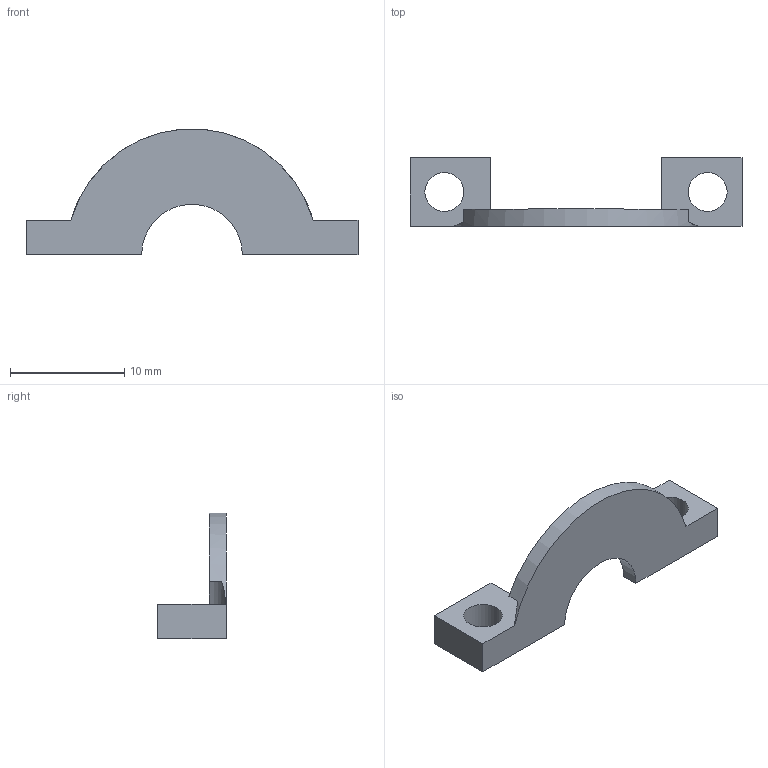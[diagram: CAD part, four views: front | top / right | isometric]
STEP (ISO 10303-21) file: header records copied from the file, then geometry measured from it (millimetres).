
FILE_DESCRIPTION(('Open CASCADE Model'),'2;1');
FILE_NAME('Open CASCADE Shape Model','2026-10-05T13:24:19',('Author'),( 'Open CASCADE'),'Open CASCADE STEP processor 7.8','Open CASCADE 7.8' ,'Unknown');
FILE_SCHEMA(('AUTOMOTIVE_DESIGN { 1 0 10303 214 1 1 1 1 }'));
Length unit declared in the file: millimetre
Products named in the file (1): Open CASCADE STEP translator 7.8 9
Bounding box: 29 x 6 x 10.96 mm (x, y, z)
Volume: 402 mm3; surface area: 686.4 mm2
Topology: 1 solids, 1 shells, 20 faces, 54 edges, 36 vertices
Faces by surface type: plane 14, cylinder 6
Full cylindrical faces by diameter (mm): 3.4 x2
Entity records: 1366 total; most frequent: CARTESIAN_POINT 308, DIRECTION 182, LINE 109, VECTOR 109, ORIENTED_EDGE 108, PCURVE 108, DEFINITIONAL_REPRESENTATION 108, EDGE_CURVE 54
